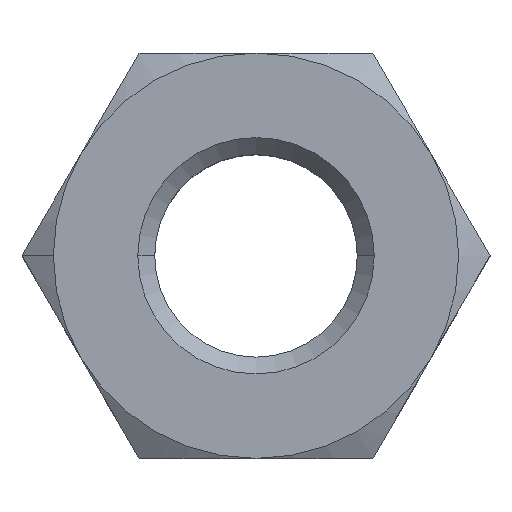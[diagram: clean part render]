
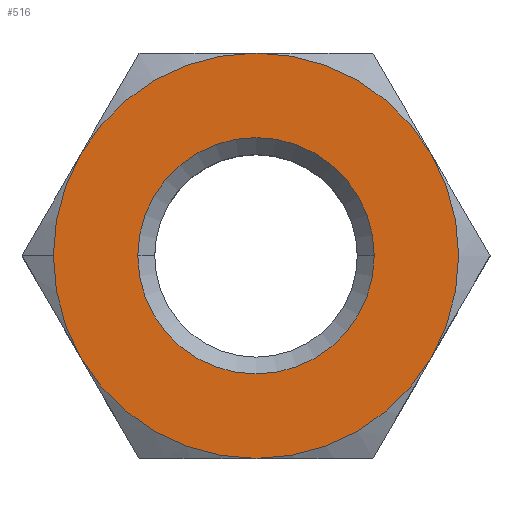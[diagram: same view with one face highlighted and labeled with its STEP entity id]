
A CAD part, top view. The second image highlights one B-rep face of the part: STEP entity #516.
In plain terms, the highlighted planar face has unit normal (0, 0, 1).
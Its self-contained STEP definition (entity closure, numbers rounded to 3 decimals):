
#7 = ORIENTED_EDGE ( 'NONE', *, *, #735, .T. ) ;
#13 = DIRECTION ( 'NONE',  ( -1., 0., 0. ) ) ;
#14 = AXIS2_PLACEMENT_3D ( 'NONE', #287, #839, #317 ) ;
#23 = AXIS2_PLACEMENT_3D ( 'NONE', #660, #246, #309 ) ;
#44 = CARTESIAN_POINT ( 'NONE',  ( -2.598, -1.5, 2. ) ) ;
#76 = DIRECTION ( 'NONE',  ( 0., 0., -1. ) ) ;
#87 = VERTEX_POINT ( 'NONE', #254 ) ;
#94 = CIRCLE ( 'NONE', #353, 3. ) ;
#95 = DIRECTION ( 'NONE',  ( 1., 0., 0. ) ) ;
#115 = CARTESIAN_POINT ( 'NONE',  ( 0., 0., 2. ) ) ;
#120 = AXIS2_PLACEMENT_3D ( 'NONE', #273, #426, #355 ) ;
#130 = DIRECTION ( 'NONE',  ( 0., 0., 1. ) ) ;
#140 = EDGE_CURVE ( 'NONE', #230, #225, #511, .T. ) ;
#142 = DIRECTION ( 'NONE',  ( -1., 0., 0. ) ) ;
#148 = CARTESIAN_POINT ( 'NONE',  ( 0., 0., 2. ) ) ;
#157 = CARTESIAN_POINT ( 'NONE',  ( 0., 0., 2. ) ) ;
#169 = CARTESIAN_POINT ( 'NONE',  ( 0., 0., 2. ) ) ;
#173 = ORIENTED_EDGE ( 'NONE', *, *, #703, .T. ) ;
#203 = CIRCLE ( 'NONE', #334, 1.75 ) ;
#221 = ORIENTED_EDGE ( 'NONE', *, *, #425, .T. ) ;
#224 = FACE_BOUND ( 'NONE', #405, .T. ) ;
#225 = VERTEX_POINT ( 'NONE', #44 ) ;
#228 = EDGE_CURVE ( 'NONE', #385, #595, #676, .T. ) ;
#230 = VERTEX_POINT ( 'NONE', #532 ) ;
#236 = ORIENTED_EDGE ( 'NONE', *, *, #554, .T. ) ;
#245 = EDGE_LOOP ( 'NONE', ( #173, #813, #236, #221, #296, #275, #486 ) ) ;
#246 = DIRECTION ( 'NONE',  ( 0., 0., -1. ) ) ;
#248 = FACE_OUTER_BOUND ( 'NONE', #245, .T. ) ;
#254 = CARTESIAN_POINT ( 'NONE',  ( 2.598, 1.5, 2. ) ) ;
#269 = CARTESIAN_POINT ( 'NONE',  ( 0., -3., 2. ) ) ;
#272 = AXIS2_PLACEMENT_3D ( 'NONE', #484, #758, #142 ) ;
#273 = CARTESIAN_POINT ( 'NONE',  ( 0., 0., 2. ) ) ;
#275 = ORIENTED_EDGE ( 'NONE', *, *, #502, .T. ) ;
#287 = CARTESIAN_POINT ( 'NONE',  ( 0., 0., 2. ) ) ;
#294 = DIRECTION ( 'NONE',  ( -1., 0., 0. ) ) ;
#296 = ORIENTED_EDGE ( 'NONE', *, *, #721, .T. ) ;
#309 = DIRECTION ( 'NONE',  ( -1., 0., 0. ) ) ;
#317 = DIRECTION ( 'NONE',  ( -1., 0., 0. ) ) ;
#334 = AXIS2_PLACEMENT_3D ( 'NONE', #148, #76, #13 ) ;
#353 = AXIS2_PLACEMENT_3D ( 'NONE', #115, #505, #294 ) ;
#355 = DIRECTION ( 'NONE',  ( -1., 0., 0. ) ) ;
#359 = CARTESIAN_POINT ( 'NONE',  ( -1.75, 0., 2. ) ) ;
#361 = VERTEX_POINT ( 'NONE', #714 ) ;
#368 = CIRCLE ( 'NONE', #14, 3. ) ;
#385 = VERTEX_POINT ( 'NONE', #359 ) ;
#405 = EDGE_LOOP ( 'NONE', ( #7, #613 ) ) ;
#417 = DIRECTION ( 'NONE',  ( -1., 0., 0. ) ) ;
#425 = EDGE_CURVE ( 'NONE', #840, #361, #94, .T. ) ;
#426 = DIRECTION ( 'NONE',  ( 0., 0., 1. ) ) ;
#437 = AXIS2_PLACEMENT_3D ( 'NONE', #797, #130, #811 ) ;
#453 = CIRCLE ( 'NONE', #624, 3. ) ;
#457 = CARTESIAN_POINT ( 'NONE',  ( -2.598, 1.5, 2. ) ) ;
#473 = CARTESIAN_POINT ( 'NONE',  ( 0., 3., 2. ) ) ;
#480 = CIRCLE ( 'NONE', #120, 3. ) ;
#484 = CARTESIAN_POINT ( 'NONE',  ( 0., 0., 2. ) ) ;
#486 = ORIENTED_EDGE ( 'NONE', *, *, #864, .F. ) ;
#492 = DIRECTION ( 'NONE',  ( 0., 0., 1. ) ) ;
#502 = EDGE_CURVE ( 'NONE', #87, #850, #368, .T. ) ;
#505 = DIRECTION ( 'NONE',  ( 0., 0., 1. ) ) ;
#511 = CIRCLE ( 'NONE', #800, 3. ) ;
#512 = DIRECTION ( 'NONE',  ( 0., 0., -1. ) ) ;
#516 = ADVANCED_FACE ( 'NONE', ( #224, #248 ), #647, .F. ) ;
#524 = DIRECTION ( 'NONE',  ( -1., 0., 0. ) ) ;
#527 = CIRCLE ( 'NONE', #437, 3. ) ;
#532 = CARTESIAN_POINT ( 'NONE',  ( -3., 0., 2. ) ) ;
#535 = VERTEX_POINT ( 'NONE', #457 ) ;
#540 = CARTESIAN_POINT ( 'NONE',  ( 1.75, 0., 2. ) ) ;
#554 = EDGE_CURVE ( 'NONE', #225, #840, #527, .T. ) ;
#595 = VERTEX_POINT ( 'NONE', #540 ) ;
#598 = AXIS2_PLACEMENT_3D ( 'NONE', #157, #512, #95 ) ;
#613 = ORIENTED_EDGE ( 'NONE', *, *, #228, .T. ) ;
#624 = AXIS2_PLACEMENT_3D ( 'NONE', #820, #492, #417 ) ;
#647 = PLANE ( 'NONE',  #598 ) ;
#654 = DIRECTION ( 'NONE',  ( 0., 0., 1. ) ) ;
#660 = CARTESIAN_POINT ( 'NONE',  ( 0., 0., 2. ) ) ;
#676 = CIRCLE ( 'NONE', #23, 1.75 ) ;
#703 = EDGE_CURVE ( 'NONE', #535, #230, #480, .T. ) ;
#714 = CARTESIAN_POINT ( 'NONE',  ( 2.598, -1.5, 2. ) ) ;
#721 = EDGE_CURVE ( 'NONE', #361, #87, #453, .T. ) ;
#735 = EDGE_CURVE ( 'NONE', #595, #385, #203, .T. ) ;
#758 = DIRECTION ( 'NONE',  ( 0., 0., -1. ) ) ;
#790 = CIRCLE ( 'NONE', #272, 3. ) ;
#797 = CARTESIAN_POINT ( 'NONE',  ( 0., 0., 2. ) ) ;
#800 = AXIS2_PLACEMENT_3D ( 'NONE', #169, #654, #524 ) ;
#811 = DIRECTION ( 'NONE',  ( -1., 0., 0. ) ) ;
#813 = ORIENTED_EDGE ( 'NONE', *, *, #140, .T. ) ;
#820 = CARTESIAN_POINT ( 'NONE',  ( 0., 0., 2. ) ) ;
#839 = DIRECTION ( 'NONE',  ( 0., 0., 1. ) ) ;
#840 = VERTEX_POINT ( 'NONE', #269 ) ;
#850 = VERTEX_POINT ( 'NONE', #473 ) ;
#864 = EDGE_CURVE ( 'NONE', #535, #850, #790, .T. ) ;
